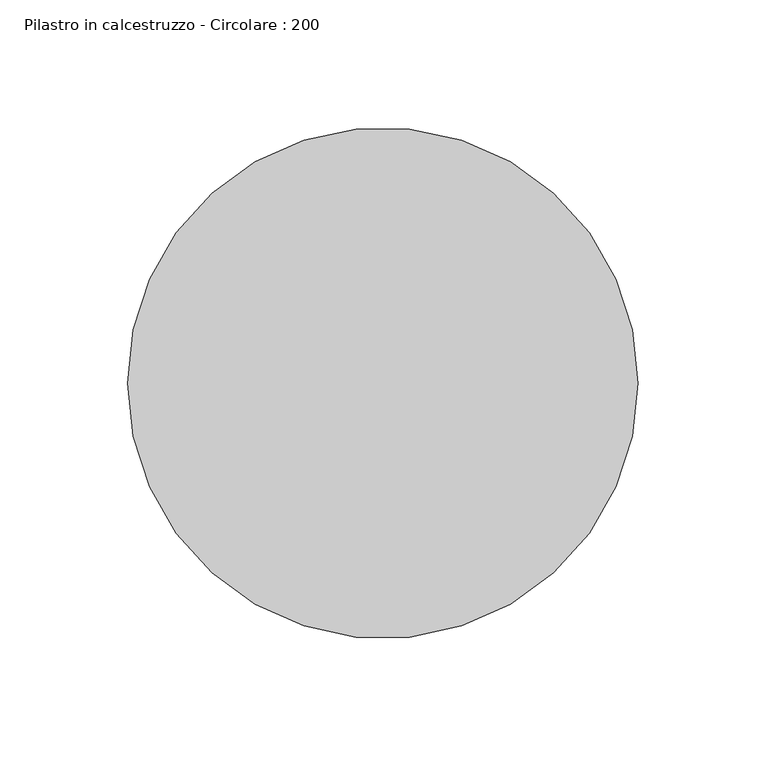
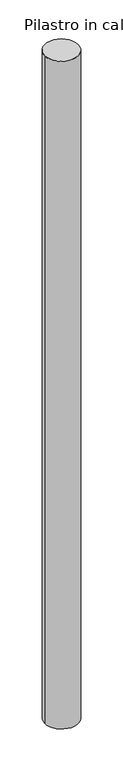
"""IFC4 building model written with IfcOpenShell, lengths in millimetres: column geometry, Pilastro in calcestruzzo - Circolare : 200."""

from ifc_helpers import new_model, si_unit, point, origin, origin_with_axes, origin_2d, place, context, project, spatial, circle_curve, trimmed, segment, composite_curve, outline, extrude, source, transform, mapped, element, save


def pilastro_in_calcestruzzo_circolare_200_a869e825(model_context):
    return source(origin(), model_context, "Body", "SweptSolid", [
        extrude(outline(composite_curve([segment(trimmed(circle_curve(origin_2d(), 100.0), [point((-100.0, 0.0))], [point((100.0, 0.0))], False, "CARTESIAN"), True, "CONTINUOUS"), segment(trimmed(circle_curve(origin_2d(), 100.0), [point((100.0, 0.0))], [point((-100.0, 0.0))], False, "CARTESIAN"), True, "CONTINUOUS")], self_intersect=False)), origin_with_axes(), (0.0, 0.0, 1.0), 4200.0),
    ])


if __name__ == "__main__":
    model = new_model("IFC4")
    model_context = context("Model", 3, world=origin())
    ifc_project = project(units=[si_unit("LENGTHUNIT", "METRE", prefix="MILLI")], contexts=[model_context])
    site = spatial("IfcSite", under=ifc_project)
    building = spatial("IfcBuilding", under=site)
    placement = place(None, origin())
    pilastro_in_calcestruzzo_circolare_200_shape = pilastro_in_calcestruzzo_circolare_200_a869e825(model_context)
    element("IfcColumn", 1, ObjectType="Pilastro in calcestruzzo - Circolare : 200", at=placement, inside=building, context=model_context, shape_type="MappedRepresentation", body=[
        mapped(pilastro_in_calcestruzzo_circolare_200_shape, transform((0.0, 0.0, 0.0), x_axis=(1.0, 0.0, 0.0), y_axis=(0.0, 1.0, 0.0), z_axis=(0.0, 0.0, 1.0))),
    ])
    save(model, "model.ifc")
